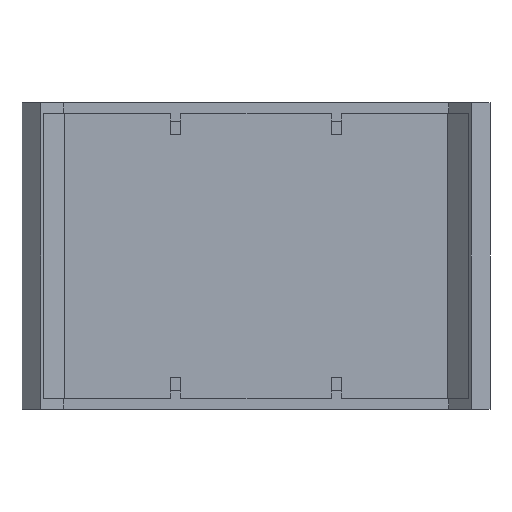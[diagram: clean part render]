
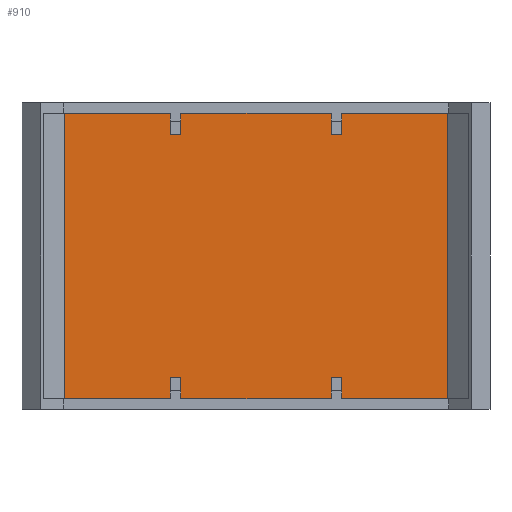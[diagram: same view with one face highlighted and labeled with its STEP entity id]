
A CAD part, front view. The second image highlights one B-rep face of the part: STEP entity #910.
In plain terms, the highlighted planar face has unit normal (0, -1, 0).
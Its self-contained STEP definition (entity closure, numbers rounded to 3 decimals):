
#7 = VERTEX_POINT ( 'NONE', #406 ) ;
#20 = CARTESIAN_POINT ( 'NONE',  ( 28.397, 0.279, 6. ) ) ;
#21 = CARTESIAN_POINT ( 'NONE',  ( -2.103, 0.279, 56. ) ) ;
#28 = DIRECTION ( 'NONE',  ( 0., 0., 1. ) ) ;
#31 = CARTESIAN_POINT ( 'NONE',  ( -0.103, 0.279, 2. ) ) ;
#36 = EDGE_CURVE ( 'NONE', #943, #1296, #175, .T. ) ;
#67 = CARTESIAN_POINT ( 'NONE',  ( 28.397, 0.279, 52. ) ) ;
#86 = DIRECTION ( 'NONE',  ( -1., 0., 0. ) ) ;
#98 = VECTOR ( 'NONE', #1200, 1000. ) ;
#111 = CARTESIAN_POINT ( 'NONE',  ( 28.397, 0.279, 2. ) ) ;
#118 = VECTOR ( 'NONE', #467, 1000. ) ;
#122 = ORIENTED_EDGE ( 'NONE', *, *, #599, .T. ) ;
#135 = DIRECTION ( 'NONE',  ( 1., 0., 0. ) ) ;
#140 = ORIENTED_EDGE ( 'NONE', *, *, #203, .F. ) ;
#141 = ORIENTED_EDGE ( 'NONE', *, *, #1175, .F. ) ;
#175 = LINE ( 'NONE', #362, #178 ) ;
#178 = VECTOR ( 'NONE', #591, 1000. ) ;
#181 = LINE ( 'NONE', #497, #370 ) ;
#182 = DIRECTION ( 'NONE',  ( 0., 0., 1. ) ) ;
#189 = LINE ( 'NONE', #990, #457 ) ;
#201 = CARTESIAN_POINT ( 'NONE',  ( -26.103, 0.279, 2. ) ) ;
#203 = EDGE_CURVE ( 'NONE', #7, #1011, #345, .T. ) ;
#238 = DIRECTION ( 'NONE',  ( 1., 0., 0. ) ) ;
#243 = CARTESIAN_POINT ( 'NONE',  ( -2.103, 0.279, 52. ) ) ;
#253 = DIRECTION ( 'NONE',  ( 0., 0., -1. ) ) ;
#285 = CARTESIAN_POINT ( 'NONE',  ( 30.397, 0.279, 56. ) ) ;
#309 = EDGE_CURVE ( 'NONE', #1416, #991, #487, .T. ) ;
#311 = CARTESIAN_POINT ( 'NONE',  ( 30.397, 0.279, 52. ) ) ;
#317 = PLANE ( 'NONE',  #768 ) ;
#318 = EDGE_CURVE ( 'NONE', #999, #1202, #431, .T. ) ;
#336 = EDGE_CURVE ( 'NONE', #1149, #1050, #496, .T. ) ;
#338 = VECTOR ( 'NONE', #923, 1000. ) ;
#342 = VERTEX_POINT ( 'NONE', #31 ) ;
#343 = LINE ( 'NONE', #243, #118 ) ;
#345 = LINE ( 'NONE', #548, #367 ) ;
#348 = ORIENTED_EDGE ( 'NONE', *, *, #318, .T. ) ;
#362 = CARTESIAN_POINT ( 'NONE',  ( -0.103, 0.279, 52. ) ) ;
#367 = VECTOR ( 'NONE', #445, 1000. ) ;
#369 = CARTESIAN_POINT ( 'NONE',  ( -2.103, 0.279, 52. ) ) ;
#370 = VECTOR ( 'NONE', #603, 1000. ) ;
#384 = CARTESIAN_POINT ( 'NONE',  ( 50.397, 0.279, 56. ) ) ;
#386 = LINE ( 'NONE', #819, #338 ) ;
#406 = CARTESIAN_POINT ( 'NONE',  ( -0.103, 0.279, 6. ) ) ;
#423 = CARTESIAN_POINT ( 'NONE',  ( -22.103, 0.279, 56. ) ) ;
#431 = LINE ( 'NONE', #470, #508 ) ;
#445 = DIRECTION ( 'NONE',  ( -1., 0., 0. ) ) ;
#452 = CARTESIAN_POINT ( 'NONE',  ( -22.103, 0.279, 2. ) ) ;
#457 = VECTOR ( 'NONE', #1109, 1000. ) ;
#467 = DIRECTION ( 'NONE',  ( 0., 0., -1. ) ) ;
#470 = CARTESIAN_POINT ( 'NONE',  ( -26.103, 0.279, 2. ) ) ;
#487 = LINE ( 'NONE', #571, #492 ) ;
#491 = LINE ( 'NONE', #1250, #1289 ) ;
#492 = VECTOR ( 'NONE', #238, 1000. ) ;
#496 = LINE ( 'NONE', #1243, #524 ) ;
#497 = CARTESIAN_POINT ( 'NONE',  ( -2.103, 0.279, 6. ) ) ;
#500 = EDGE_CURVE ( 'NONE', #546, #1416, #1287, .T. ) ;
#504 = CARTESIAN_POINT ( 'NONE',  ( 28.397, 0.279, 52. ) ) ;
#508 = VECTOR ( 'NONE', #135, 1000. ) ;
#524 = VECTOR ( 'NONE', #253, 1000. ) ;
#530 = DIRECTION ( 'NONE',  ( 0., 0., -1. ) ) ;
#540 = CARTESIAN_POINT ( 'NONE',  ( -2.103, 0.279, 6. ) ) ;
#546 = VERTEX_POINT ( 'NONE', #1101 ) ;
#548 = CARTESIAN_POINT ( 'NONE',  ( -2.103, 0.279, 6. ) ) ;
#571 = CARTESIAN_POINT ( 'NONE',  ( 28.397, 0.279, 52. ) ) ;
#591 = DIRECTION ( 'NONE',  ( 0., 0., 1. ) ) ;
#598 = CARTESIAN_POINT ( 'NONE',  ( -0.103, 0.279, 56. ) ) ;
#599 = EDGE_CURVE ( 'NONE', #1202, #1346, #948, .T. ) ;
#603 = DIRECTION ( 'NONE',  ( 0., 0., -1. ) ) ;
#630 = VERTEX_POINT ( 'NONE', #21 ) ;
#633 = CARTESIAN_POINT ( 'NONE',  ( -26.103, 0.279, 56. ) ) ;
#638 = DIRECTION ( 'NONE',  ( -1., 0., 0. ) ) ;
#642 = ORIENTED_EDGE ( 'NONE', *, *, #1356, .T. ) ;
#665 = LINE ( 'NONE', #1297, #701 ) ;
#682 = CARTESIAN_POINT ( 'NONE',  ( 30.397, 0.279, 6. ) ) ;
#701 = VECTOR ( 'NONE', #1292, 1000. ) ;
#708 = ORIENTED_EDGE ( 'NONE', *, *, #932, .T. ) ;
#712 = CARTESIAN_POINT ( 'NONE',  ( 30.397, 0.279, 6. ) ) ;
#719 = LINE ( 'NONE', #311, #755 ) ;
#726 = EDGE_CURVE ( 'NONE', #1011, #898, #181, .T. ) ;
#729 = VERTEX_POINT ( 'NONE', #712 ) ;
#737 = EDGE_CURVE ( 'NONE', #729, #1149, #386, .T. ) ;
#738 = CARTESIAN_POINT ( 'NONE',  ( -2.103, 0.279, 52. ) ) ;
#739 = LINE ( 'NONE', #738, #770 ) ;
#755 = VECTOR ( 'NONE', #182, 1000. ) ;
#757 = VECTOR ( 'NONE', #1197, 1000. ) ;
#765 = EDGE_LOOP ( 'NONE', ( #901, #1168, #1405, #779, #348, #122, #1055, #1334, #1395, #878, #708, #1294, #1147, #141, #1037, #1249, #642, #1419, #140, #1015 ) ) ;
#768 = AXIS2_PLACEMENT_3D ( 'NONE', #1062, #1188, #530 ) ;
#770 = VECTOR ( 'NONE', #945, 1000. ) ;
#771 = VECTOR ( 'NONE', #638, 1000. ) ;
#779 = ORIENTED_EDGE ( 'NONE', *, *, #1184, .F. ) ;
#798 = LINE ( 'NONE', #633, #800 ) ;
#800 = VECTOR ( 'NONE', #86, 1000. ) ;
#818 = FACE_OUTER_BOUND ( 'NONE', #765, .T. ) ;
#819 = CARTESIAN_POINT ( 'NONE',  ( 28.397, 0.279, 6. ) ) ;
#824 = LINE ( 'NONE', #920, #827 ) ;
#827 = VECTOR ( 'NONE', #1373, 1000. ) ;
#839 = LINE ( 'NONE', #201, #757 ) ;
#870 = LINE ( 'NONE', #1409, #771 ) ;
#871 = EDGE_CURVE ( 'NONE', #630, #937, #665, .T. ) ;
#878 = ORIENTED_EDGE ( 'NONE', *, *, #500, .F. ) ;
#885 = EDGE_CURVE ( 'NONE', #991, #1384, #719, .T. ) ;
#887 = EDGE_CURVE ( 'NONE', #1185, #943, #739, .T. ) ;
#898 = VERTEX_POINT ( 'NONE', #1398 ) ;
#899 = EDGE_CURVE ( 'NONE', #1346, #1384, #798, .T. ) ;
#901 = ORIENTED_EDGE ( 'NONE', *, *, #954, .T. ) ;
#910 = ADVANCED_FACE ( 'NONE', ( #818 ), #317, .T. ) ;
#920 = CARTESIAN_POINT ( 'NONE',  ( -26.103, 0.279, 2. ) ) ;
#923 = DIRECTION ( 'NONE',  ( -1., 0., 0. ) ) ;
#932 = EDGE_CURVE ( 'NONE', #546, #1296, #870, .T. ) ;
#937 = VERTEX_POINT ( 'NONE', #423 ) ;
#943 = VERTEX_POINT ( 'NONE', #1191 ) ;
#945 = DIRECTION ( 'NONE',  ( 1., 0., 0. ) ) ;
#948 = LINE ( 'NONE', #1209, #98 ) ;
#954 = EDGE_CURVE ( 'NONE', #342, #1050, #839, .T. ) ;
#990 = CARTESIAN_POINT ( 'NONE',  ( -0.103, 0.279, 6. ) ) ;
#991 = VERTEX_POINT ( 'NONE', #1077 ) ;
#999 = VERTEX_POINT ( 'NONE', #1203 ) ;
#1011 = VERTEX_POINT ( 'NONE', #540 ) ;
#1015 = ORIENTED_EDGE ( 'NONE', *, *, #1080, .F. ) ;
#1037 = ORIENTED_EDGE ( 'NONE', *, *, #871, .T. ) ;
#1050 = VERTEX_POINT ( 'NONE', #111 ) ;
#1055 = ORIENTED_EDGE ( 'NONE', *, *, #899, .T. ) ;
#1062 = CARTESIAN_POINT ( 'NONE',  ( 0., 0.279, 0. ) ) ;
#1066 = VERTEX_POINT ( 'NONE', #452 ) ;
#1077 = CARTESIAN_POINT ( 'NONE',  ( 30.397, 0.279, 52. ) ) ;
#1080 = EDGE_CURVE ( 'NONE', #342, #7, #189, .T. ) ;
#1101 = CARTESIAN_POINT ( 'NONE',  ( 28.397, 0.279, 56. ) ) ;
#1109 = DIRECTION ( 'NONE',  ( 0., 0., 1. ) ) ;
#1147 = ORIENTED_EDGE ( 'NONE', *, *, #887, .F. ) ;
#1149 = VERTEX_POINT ( 'NONE', #20 ) ;
#1164 = VECTOR ( 'NONE', #28, 1000. ) ;
#1168 = ORIENTED_EDGE ( 'NONE', *, *, #336, .F. ) ;
#1175 = EDGE_CURVE ( 'NONE', #630, #1185, #343, .T. ) ;
#1184 = EDGE_CURVE ( 'NONE', #999, #729, #1301, .T. ) ;
#1185 = VERTEX_POINT ( 'NONE', #369 ) ;
#1188 = DIRECTION ( 'NONE',  ( 0., -1., 0. ) ) ;
#1191 = CARTESIAN_POINT ( 'NONE',  ( -0.103, 0.279, 52. ) ) ;
#1197 = DIRECTION ( 'NONE',  ( 1., 0., 0. ) ) ;
#1200 = DIRECTION ( 'NONE',  ( 0., 0., 1. ) ) ;
#1202 = VERTEX_POINT ( 'NONE', #1241 ) ;
#1203 = CARTESIAN_POINT ( 'NONE',  ( 30.397, 0.279, 2. ) ) ;
#1209 = CARTESIAN_POINT ( 'NONE',  ( 50.397, 0.279, 56. ) ) ;
#1241 = CARTESIAN_POINT ( 'NONE',  ( 50.397, 0.279, 2. ) ) ;
#1243 = CARTESIAN_POINT ( 'NONE',  ( 28.397, 0.279, 6. ) ) ;
#1249 = ORIENTED_EDGE ( 'NONE', *, *, #1272, .T. ) ;
#1250 = CARTESIAN_POINT ( 'NONE',  ( -22.103, 0.279, 2. ) ) ;
#1254 = DIRECTION ( 'NONE',  ( 0., 0., -1. ) ) ;
#1272 = EDGE_CURVE ( 'NONE', #937, #1066, #491, .T. ) ;
#1287 = LINE ( 'NONE', #67, #1342 ) ;
#1289 = VECTOR ( 'NONE', #1254, 1000. ) ;
#1292 = DIRECTION ( 'NONE',  ( -1., 0., 0. ) ) ;
#1294 = ORIENTED_EDGE ( 'NONE', *, *, #36, .F. ) ;
#1296 = VERTEX_POINT ( 'NONE', #598 ) ;
#1297 = CARTESIAN_POINT ( 'NONE',  ( -26.103, 0.279, 56. ) ) ;
#1301 = LINE ( 'NONE', #682, #1164 ) ;
#1334 = ORIENTED_EDGE ( 'NONE', *, *, #885, .F. ) ;
#1342 = VECTOR ( 'NONE', #1381, 1000. ) ;
#1346 = VERTEX_POINT ( 'NONE', #384 ) ;
#1356 = EDGE_CURVE ( 'NONE', #1066, #898, #824, .T. ) ;
#1373 = DIRECTION ( 'NONE',  ( 1., 0., 0. ) ) ;
#1381 = DIRECTION ( 'NONE',  ( 0., 0., -1. ) ) ;
#1384 = VERTEX_POINT ( 'NONE', #285 ) ;
#1395 = ORIENTED_EDGE ( 'NONE', *, *, #309, .F. ) ;
#1398 = CARTESIAN_POINT ( 'NONE',  ( -2.103, 0.279, 2. ) ) ;
#1405 = ORIENTED_EDGE ( 'NONE', *, *, #737, .F. ) ;
#1409 = CARTESIAN_POINT ( 'NONE',  ( -26.103, 0.279, 56. ) ) ;
#1416 = VERTEX_POINT ( 'NONE', #504 ) ;
#1419 = ORIENTED_EDGE ( 'NONE', *, *, #726, .F. ) ;
